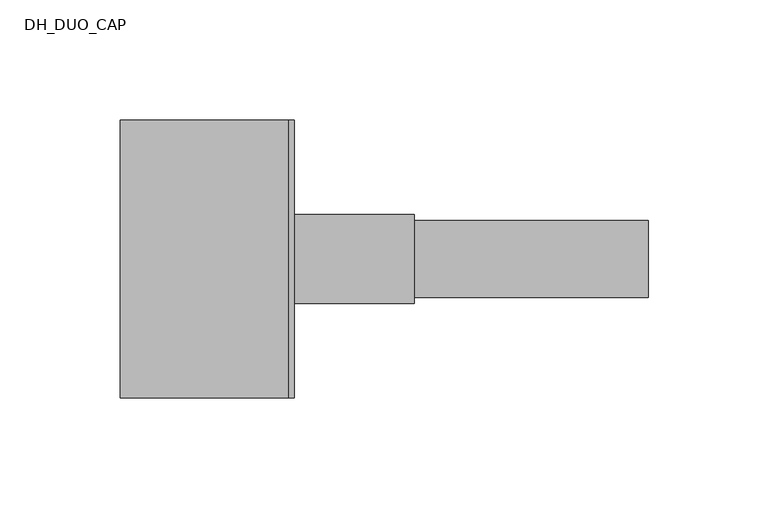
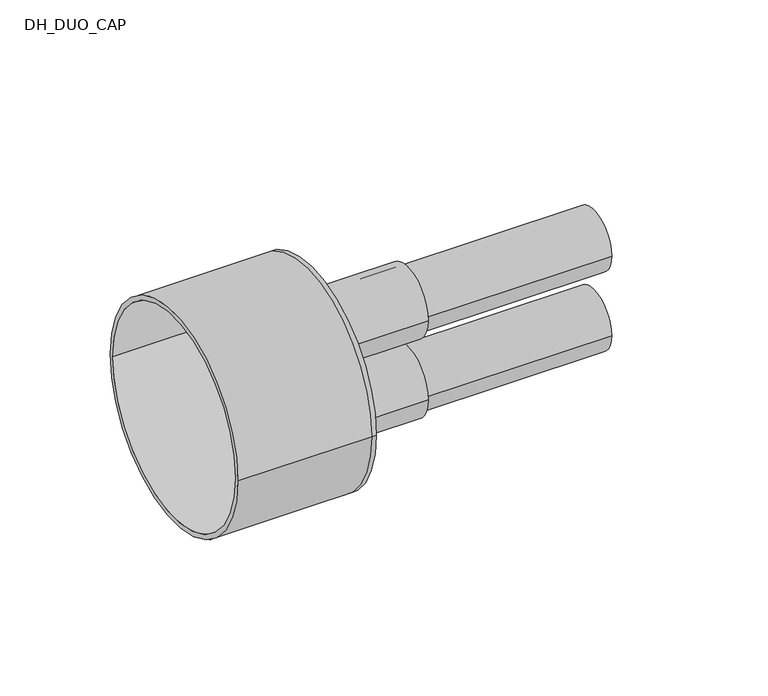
"""IFC4 building model written with IfcOpenShell, lengths in millimetres: pipe fitting geometry, DH_DUO_CAP : RAUTHERMEX DUO 7.4 Heating - Rubber Cap."""

from ifc_helpers import new_model, si_unit, point, frame, frame_2d, origin, place, context, project, spatial, polyline, circle_curve, trimmed, segment, composite_curve, outline, extrude, source, transform, mapped, element, save
from ifc_brep_helpers import plane_surface, cylinder_surface, revolved_surface, advanced_brep


def dh_duo_cap_b1a9b0d2(model_context):
    return source(origin(), model_context, "Body", "SolidModel", [
        extrude(outline(composite_curve([segment(trimmed(circle_curve(frame_2d((0.0, -22.0)), 16.0), [point((-16.0, -22.0))], [point((16.0, -22.0))], False, "CARTESIAN"), True, "CONTINUOUS"), segment(trimmed(circle_curve(frame_2d((0.0, -22.0)), 16.0), [point((16.0, -22.0))], [point((-16.0, -22.0))], False, "CARTESIAN"), True, "CONTINUOUS")], self_intersect=False), holes=[composite_curve([segment(trimmed(circle_curve(frame_2d((0.0, -22.0)), 11.6), [point((-11.6, -22.0))], [point((11.6, -22.0))], True, "CARTESIAN"), True, "CONTINUOUS"), segment(trimmed(circle_curve(frame_2d((0.0, -22.0)), 11.6), [point((11.6, -22.0))], [point((-11.6, -22.0))], True, "CARTESIAN"), True, "CONTINUOUS")], self_intersect=False)]), frame((0.0, 0.0, 0.0), z_axis=(1.0, 0.0, 0.0), x_axis=(0.0, 1.0, 0.0)), (0.0, 0.0, 1.0), 150.0),
        extrude(outline(composite_curve([segment(trimmed(circle_curve(frame_2d((0.0, 22.0)), 16.0), [point((-16.0, 22.0))], [point((16.0, 22.0))], False, "CARTESIAN"), True, "CONTINUOUS"), segment(trimmed(circle_curve(frame_2d((0.0, 22.0)), 16.0), [point((16.0, 22.0))], [point((-16.0, 22.0))], False, "CARTESIAN"), True, "CONTINUOUS")], self_intersect=False), holes=[composite_curve([segment(trimmed(circle_curve(frame_2d((0.0, 22.0)), 11.6), [point((-11.6, 22.0))], [point((11.6, 22.0))], True, "CARTESIAN"), True, "CONTINUOUS"), segment(trimmed(circle_curve(frame_2d((0.0, 22.0)), 11.6), [point((11.6, 22.0))], [point((-11.6, 22.0))], True, "CARTESIAN"), True, "CONTINUOUS")], self_intersect=False)]), frame((0.0, 0.0, 0.0), z_axis=(1.0, 0.0, 0.0), x_axis=(0.0, 1.0, 0.0)), (0.0, 0.0, 1.0), 150.0),
        advanced_brep(
        [(-70.0, -58.0, 0.0), (-70.0, 58.0, 0.0), (-70.0, -55.5, 0.0), (-70.0, 55.5, 0.0), (0.0, -55.5, 0.0), (0.0, 55.5, 0.0), (0.0, -58.0, 0.0), (0.0, 58.0, 0.0), (0.0, 16.0, 22.0), (0.0, -16.0, 22.0), (0.0, 16.0, -22.0), (0.0, -16.0, -22.0), (2.5, -58.0, 0.0), (2.5, 58.0, 0.0), (2.5, -16.0, 22.0), (2.5, 16.0, 22.0), (2.5, -16.0, -22.0), (2.5, 16.0, -22.0)],
        [
            (0, 1, circle_curve(frame((-70.0, 0.0, 0.0), z_axis=(-1.0, 0.0, 0.0), x_axis=(0.0, 1.0, 0.0)), 58.0)),
            (1, 0, circle_curve(frame((-70.0, 0.0, 0.0), z_axis=(-1.0, 0.0, 0.0), x_axis=(0.0, 1.0, 0.0)), 58.0)),
            (2, 3, circle_curve(frame((-70.0, 0.0, 0.0), z_axis=(1.0, 0.0, 0.0), x_axis=(0.0, 1.0, 0.0)), 55.5)),
            (3, 2, circle_curve(frame((-70.0, 0.0, 0.0), z_axis=(1.0, 0.0, 0.0), x_axis=(0.0, 1.0, 0.0)), 55.5)),
            (2, 4),
            (4, 5, circle_curve(frame((0.0, 0.0, 0.0), z_axis=(1.0, 0.0, 0.0), x_axis=(0.0, 1.0, 0.0)), 55.5)),
            (5, 3),
            (5, 4, circle_curve(frame((0.0, 0.0, 0.0), z_axis=(1.0, 0.0, 0.0), x_axis=(0.0, 1.0, 0.0)), 55.5)),
            (0, 6),
            (6, 7, circle_curve(frame((0.0, 0.0, 0.0), z_axis=(-1.0, 0.0, 0.0), x_axis=(0.0, 1.0, 0.0)), 58.0)),
            (7, 1),
            (7, 6, circle_curve(frame((0.0, 0.0, 0.0), z_axis=(-1.0, 0.0, 0.0), x_axis=(0.0, 1.0, 0.0)), 58.0)),
            (8, 9, circle_curve(frame((0.0, 0.0, 22.0), z_axis=(1.0, 0.0, 0.0), x_axis=(0.0, 1.0, 0.0)), 16.0)),
            (9, 8, circle_curve(frame((0.0, 0.0, 22.0), z_axis=(1.0, 0.0, 0.0), x_axis=(0.0, 1.0, 0.0)), 16.0)),
            (10, 11, circle_curve(frame((0.0, 0.0, -22.0), z_axis=(1.0, 0.0, 0.0), x_axis=(0.0, 1.0, 0.0)), 16.0)),
            (11, 10, circle_curve(frame((0.0, 0.0, -22.0), z_axis=(1.0, 0.0, 0.0), x_axis=(0.0, 1.0, 0.0)), 16.0)),
            (12, 13, circle_curve(frame((2.5, 0.0, 0.0), z_axis=(1.0, 0.0, 0.0), x_axis=(0.0, 1.0, 0.0)), 58.0)),
            (13, 12, circle_curve(frame((2.5, 0.0, 0.0), z_axis=(1.0, 0.0, 0.0), x_axis=(0.0, 1.0, 0.0)), 58.0)),
            (14, 15, circle_curve(frame((2.5, 0.0, 22.0), z_axis=(-1.0, 0.0, 0.0), x_axis=(0.0, 1.0, 0.0)), 16.0)),
            (15, 14, circle_curve(frame((2.5, 0.0, 22.0), z_axis=(-1.0, 0.0, 0.0), x_axis=(0.0, 1.0, 0.0)), 16.0)),
            (16, 17, circle_curve(frame((2.5, 0.0, -22.0), z_axis=(-1.0, 0.0, 0.0), x_axis=(0.0, 1.0, 0.0)), 16.0)),
            (17, 16, circle_curve(frame((2.5, 0.0, -22.0), z_axis=(-1.0, 0.0, 0.0), x_axis=(0.0, 1.0, 0.0)), 16.0)),
            (13, 7),
            (6, 12),
            (8, 15),
            (14, 9),
            (10, 17),
            (16, 11),
        ],
        [
            plane_surface(frame((-70.0, 0.0, 0.0), z_axis=(-1.0, 0.0, 0.0), x_axis=(0.0, 0.0, 1.0))),
            revolved_surface(polyline([(0.0, 55.5, 0.0), (-70.0, 55.5, 0.0)]), (-70.0, 0.0, 0.0), (1.0, 0.0, 0.0)),
            cylinder_surface(frame((-70.0, 0.0, 0.0), z_axis=(-1.0, 0.0, 0.0), x_axis=(0.0, 1.0, 0.0)), 58.0),
            plane_surface(frame((0.0, 0.0, 0.0), z_axis=(-1.0, 0.0, 0.0), x_axis=(0.0, 0.0, 1.0))),
            plane_surface(frame((2.5, 0.0, 0.0), z_axis=(1.0, 0.0, 0.0), x_axis=(0.0, 0.0, 1.0))),
            cylinder_surface(frame((0.0, 0.0, 0.0), z_axis=(-1.0, 0.0, 0.0), x_axis=(0.0, 1.0, 0.0)), 58.0),
            revolved_surface(polyline([(0.0, 16.0, 22.0), (2.5, 16.0, 22.0)]), (0.0, 0.0, 22.0), (-1.0, 0.0, 0.0)),
            revolved_surface(polyline([(0.0, 16.0, -22.0), (2.5, 16.0, -22.0)]), (0.0, 0.0, -22.0), (-1.0, 0.0, 0.0)),
        ],
        [
            (0, [[1, 2], [3, 4]]),
            (1, [[-3, 5, 6, 7]]),
            (1, [[-4, -7, 8, -5]]),
            (2, [[-1, 9, 10, 11]]),
            (2, [[-2, -11, 12, -9]]),
            (3, [[-6, -8], [13, 14], [15, 16]]),
            (4, [[17, 18], [19, 20], [21, 22]]),
            (5, [[-18, 23, -10, 24]]),
            (5, [[-17, -24, -12, -23]]),
            (6, [[25, -19, 26, -13]]),
            (6, [[-25, -14, -26, -20]]),
            (7, [[27, -21, 28, -15]]),
            (7, [[-27, -16, -28, -22]]),
        ],
    ),
        extrude(outline(composite_curve([segment(trimmed(circle_curve(frame_2d((0.0, -22.0)), 18.5), [point((-18.5, -22.0))], [point((18.5, -22.0))], False, "CARTESIAN"), True, "CONTINUOUS"), segment(trimmed(circle_curve(frame_2d((0.0, -22.0)), 18.5), [point((18.5, -22.0))], [point((-18.5, -22.0))], False, "CARTESIAN"), True, "CONTINUOUS")], self_intersect=False), holes=[composite_curve([segment(trimmed(circle_curve(frame_2d((0.0, -22.0)), 16.0), [point((-16.0, -22.0))], [point((16.0, -22.0))], True, "CARTESIAN"), True, "CONTINUOUS"), segment(trimmed(circle_curve(frame_2d((0.0, -22.0)), 16.0), [point((16.0, -22.0))], [point((-16.0, -22.0))], True, "CARTESIAN"), True, "CONTINUOUS")], self_intersect=False)]), frame((2.5, 0.0, 0.0), z_axis=(1.0, 0.0, 0.0), x_axis=(0.0, 1.0, 0.0)), (0.0, 0.0, 1.0), 50.0),
        extrude(outline(composite_curve([segment(trimmed(circle_curve(frame_2d((0.0, 22.0)), 18.5), [point((-18.5, 22.0))], [point((18.5, 22.0))], False, "CARTESIAN"), True, "CONTINUOUS"), segment(trimmed(circle_curve(frame_2d((0.0, 22.0)), 18.5), [point((18.5, 22.0))], [point((-18.5, 22.0))], False, "CARTESIAN"), True, "CONTINUOUS")], self_intersect=False), holes=[composite_curve([segment(trimmed(circle_curve(frame_2d((0.0, 22.0)), 16.0), [point((-16.0, 22.0))], [point((16.0, 22.0))], True, "CARTESIAN"), True, "CONTINUOUS"), segment(trimmed(circle_curve(frame_2d((0.0, 22.0)), 16.0), [point((16.0, 22.0))], [point((-16.0, 22.0))], True, "CARTESIAN"), True, "CONTINUOUS")], self_intersect=False)]), frame((2.5, 0.0, 0.0), z_axis=(1.0, 0.0, 0.0), x_axis=(0.0, 1.0, 0.0)), (0.0, 0.0, 1.0), 50.0),
    ])


if __name__ == "__main__":
    model = new_model("IFC4")
    model_context = context("Model", 3, world=origin())
    ifc_project = project(units=[si_unit("LENGTHUNIT", "METRE", prefix="MILLI")], contexts=[model_context])
    site = spatial("IfcSite", under=ifc_project)
    building = spatial("IfcBuilding", under=site)
    placement = place(None, origin())
    dh_duo_cap_shape = dh_duo_cap_b1a9b0d2(model_context)
    element("IfcPipeFitting", 1, ObjectType="DH_DUO_CAP : RAUTHERMEX DUO 7.4 Heating - Rubber Cap", at=placement, inside=building, context=model_context, shape_type="MappedRepresentation", body=[
        mapped(dh_duo_cap_shape, transform((0.0, 0.0, 0.0), x_axis=(1.0, 0.0, 0.0), y_axis=(0.0, 1.0, 0.0), z_axis=(0.0, 0.0, 1.0))),
    ])
    save(model, "model.ifc")
